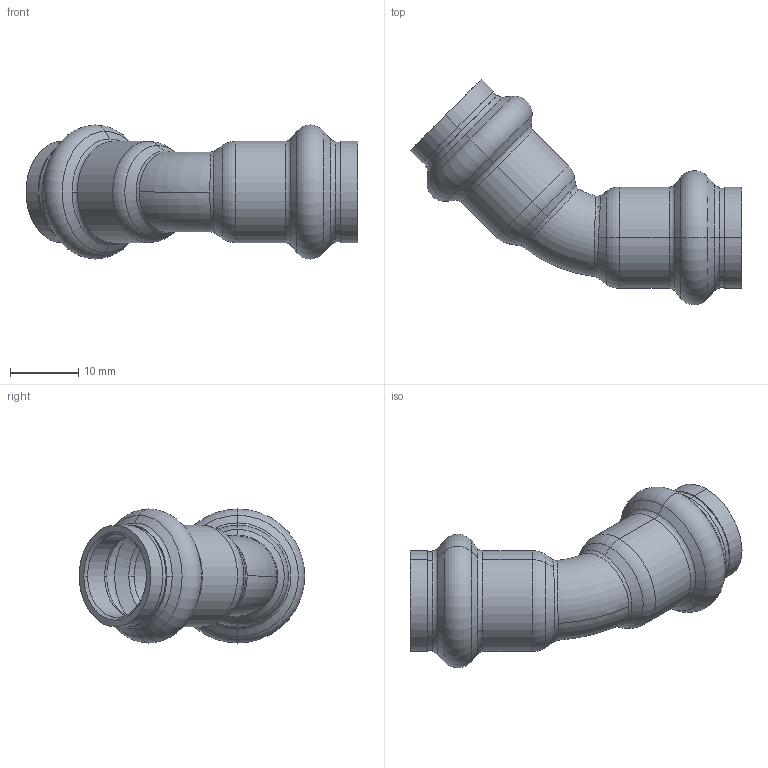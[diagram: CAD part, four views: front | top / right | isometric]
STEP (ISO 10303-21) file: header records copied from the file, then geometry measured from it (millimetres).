
FILE_DESCRIPTION (( 'STEP AP203' ), '1' );
FILE_NAME ('SP5041 Ø12.STEP', '2017-04-24T08:12:46', ( '' ), ( '' ), 'SwSTEP 2.0', 'SolidWorks 2016', '' );
FILE_SCHEMA (( 'CONFIG_CONTROL_DESIGN' ));
Length unit declared in the file: millimetre
Products named in the file (1): SP5041 ﾘ12
Bounding box: 48.8 x 33.15 x 19.7 mm (x, y, z)
Volume: 3275.8 mm3; surface area: 4852 mm2
Topology: 1 solids, 1 shells, 98 faces, 226 edges, 134 vertices
Faces by surface type: torus 36, cone 28, cylinder 24, plane 6, bspline 4
Entity records: 3801 total; most frequent: CARTESIAN_POINT 1443, DIRECTION 542, ORIENTED_EDGE 452, AXIS2_PLACEMENT_3D 245, EDGE_CURVE 226, CIRCLE 150, VERTEX_POINT 134, EDGE_LOOP 104
